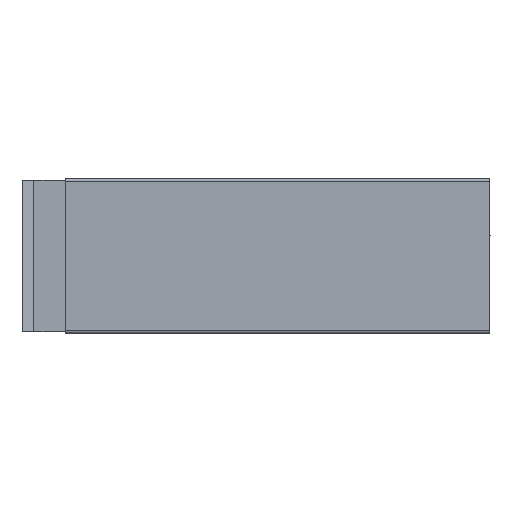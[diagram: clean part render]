
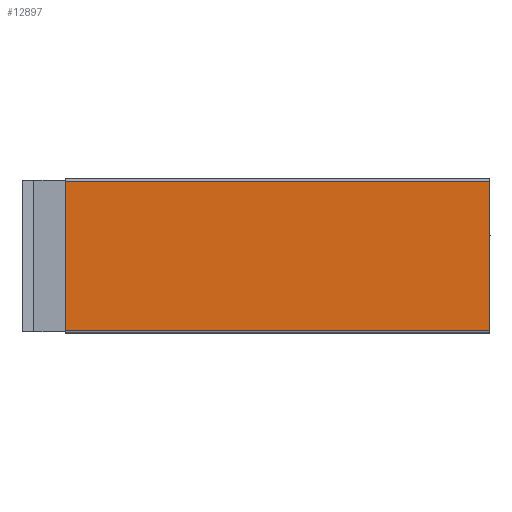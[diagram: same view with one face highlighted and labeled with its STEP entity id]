
A CAD part, left-side view. The second image highlights one B-rep face of the part: STEP entity #12897.
In plain terms, the highlighted planar face has unit normal (-1, 0, 0).
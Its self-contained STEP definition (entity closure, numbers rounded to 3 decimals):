
#2496=DIRECTION('',(0.,0.,-1.));
#2497=VECTOR('',#2496,31.7);
#2498=CARTESIAN_POINT('',(-51.55,-45.,15.85));
#2499=LINE('',#2498,#2497);
#2503=DIRECTION('',(0.,-1.,0.));
#2504=VECTOR('',#2503,90.);
#2505=CARTESIAN_POINT('',(-51.55,45.,-15.85));
#2506=LINE('',#2505,#2504);
#2510=DIRECTION('',(0.,0.,1.));
#2511=VECTOR('',#2510,31.7);
#2512=CARTESIAN_POINT('',(-51.55,45.,-15.85));
#2513=LINE('',#2512,#2511);
#2517=DIRECTION('',(0.,-1.,0.));
#2518=VECTOR('',#2517,90.);
#2519=CARTESIAN_POINT('',(-51.55,45.,15.85));
#2520=LINE('',#2519,#2518);
#9592=CARTESIAN_POINT('',(-51.55,-45.,15.85));
#9594=VERTEX_POINT('',#9592);
#9598=CARTESIAN_POINT('',(-51.55,45.,15.85));
#9599=VERTEX_POINT('',#9598);
#10124=CARTESIAN_POINT('',(-51.55,-45.,-15.85));
#10126=VERTEX_POINT('',#10124);
#10130=CARTESIAN_POINT('',(-51.55,45.,-15.85));
#10131=VERTEX_POINT('',#10130);
#12884=CARTESIAN_POINT('',(-51.55,-45.,0.));
#12885=DIRECTION('',(1.,0.,0.));
#12886=DIRECTION('',(0.,1.,0.));
#12887=AXIS2_PLACEMENT_3D('',#12884,#12885,#12886);
#12888=PLANE('',#12887);
#12889=ORIENTED_EDGE('',*,*,#11070,.T.);
#12891=ORIENTED_EDGE('',*,*,#12890,.F.);
#12892=ORIENTED_EDGE('',*,*,#12646,.T.);
#12894=ORIENTED_EDGE('',*,*,#12893,.T.);
#12895=EDGE_LOOP('',(#12889,#12891,#12892,#12894));
#12896=FACE_OUTER_BOUND('',#12895,.F.);
#11070=EDGE_CURVE('',#9594,#10126,#2499,.T.);
#12646=EDGE_CURVE('',#10131,#9599,#2513,.T.);
#12890=EDGE_CURVE('',#10131,#10126,#2506,.T.);
#12893=EDGE_CURVE('',#9599,#9594,#2520,.T.);
#12897=ADVANCED_FACE('',(#12896),#12888,.F.);
